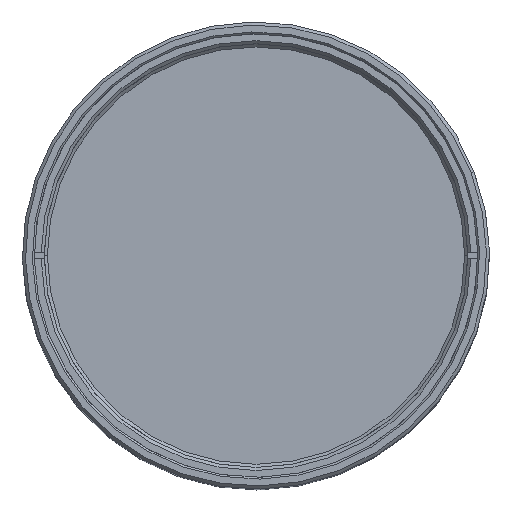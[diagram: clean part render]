
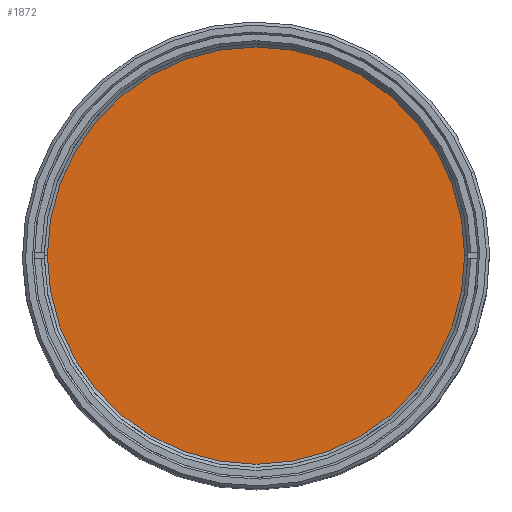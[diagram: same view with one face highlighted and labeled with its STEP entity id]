
A CAD part, top view. The second image highlights one B-rep face of the part: STEP entity #1872.
In plain terms, the highlighted planar face has unit normal (0, 0, 1).
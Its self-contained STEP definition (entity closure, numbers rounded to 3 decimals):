
#945 = ORIENTED_EDGE ( 'NONE', *, *, #1986, .T. ) ;
#946 = ORIENTED_EDGE ( 'NONE', *, *, #10396, .T. ) ;
#1872 = ADVANCED_FACE ( 'NONE', ( #4191 ), #4192, .F. ) ;
#1986 = EDGE_CURVE ( 'NONE', #5337, #5367, #4950, .T. ) ;
#4188 = CARTESIAN_POINT ( 'NONE',  ( 0., 0., 198.988 ) ) ;
#4191 = FACE_OUTER_BOUND ( 'NONE', #10018, .T. ) ;
#4192 = PLANE ( 'NONE',  #4849 ) ;
#4194 = DIRECTION ( 'NONE',  ( 0., 0., -1. ) ) ;
#4195 = DIRECTION ( 'NONE',  ( -1., 0., 0. ) ) ;
#4849 = AXIS2_PLACEMENT_3D ( 'NONE', #4188, #4194, #4195 ) ;
#4946 = AXIS2_PLACEMENT_3D ( 'NONE', #5790, #5791, #5792 ) ;
#4950 = CIRCLE ( 'NONE', #4946, 33.5 ) ;
#5337 = VERTEX_POINT ( 'NONE', #6627 ) ;
#5367 = VERTEX_POINT ( 'NONE', #6658 ) ;
#5790 = CARTESIAN_POINT ( 'NONE',  ( 0., 0., 198.988 ) ) ;
#5791 = DIRECTION ( 'NONE',  ( 0., 0., 1. ) ) ;
#5792 = DIRECTION ( 'NONE',  ( 1., 0., 0. ) ) ;
#6627 = CARTESIAN_POINT ( 'NONE',  ( 33.5, 0., 198.988 ) ) ;
#6658 = CARTESIAN_POINT ( 'NONE',  ( -33.5, 0., 198.988 ) ) ;
#7089 = CARTESIAN_POINT ( 'NONE',  ( 0., 0., 198.988 ) ) ;
#7090 = DIRECTION ( 'NONE',  ( 0., 0., 1. ) ) ;
#7091 = DIRECTION ( 'NONE',  ( 1., 0., 0. ) ) ;
#9758 = CIRCLE ( 'NONE', #9794, 33.5 ) ;
#9794 = AXIS2_PLACEMENT_3D ( 'NONE', #7089, #7090, #7091 ) ;
#10018 = EDGE_LOOP ( 'NONE', ( #945, #946 ) ) ;
#10396 = EDGE_CURVE ( 'NONE', #5367, #5337, #9758, .T. ) ;
